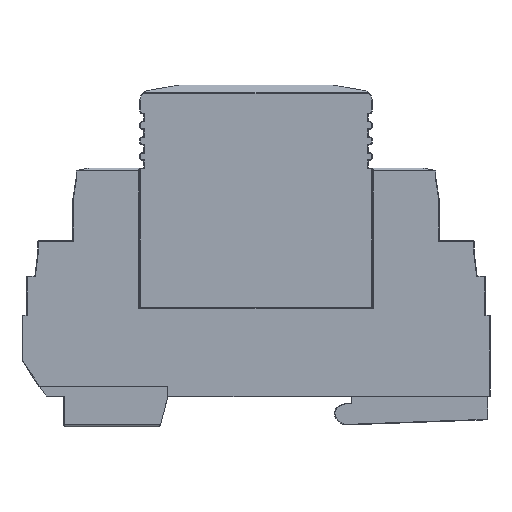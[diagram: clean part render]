
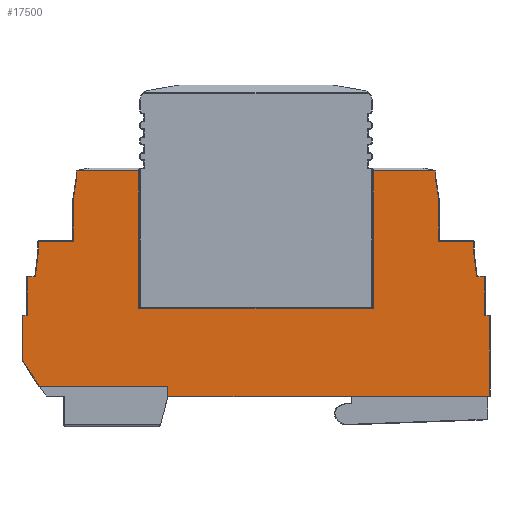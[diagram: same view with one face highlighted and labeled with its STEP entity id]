
A CAD part, front view. The second image highlights one B-rep face of the part: STEP entity #17500.
In plain terms, the highlighted planar face has unit normal (0, -1, 0).
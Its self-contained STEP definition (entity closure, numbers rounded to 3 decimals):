
#291=PLANE('',#18722);
#1047=FACE_OUTER_BOUND('',#2049,.T.);
#2049=EDGE_LOOP('',(#12763,#12764,#12765,#12766,#12767,#12768,#12769,#12770,
#12771,#12772,#12773,#12774,#12775,#12776,#12777,#12778,#12779,#12780,#12781,
#12782,#12783,#12784,#12785,#12786,#12787,#12788,#12789,#12790,#12791));
#3928=LINE('',#26361,#5921);
#3931=LINE('',#26376,#5924);
#3934=LINE('',#26393,#5927);
#3937=LINE('',#26403,#5930);
#3950=LINE('',#26445,#5943);
#3988=LINE('',#26523,#5981);
#3989=LINE('',#26525,#5982);
#3990=LINE('',#26527,#5983);
#3991=LINE('',#26529,#5984);
#3992=LINE('',#26531,#5985);
#3993=LINE('',#26533,#5986);
#3994=LINE('',#26535,#5987);
#3995=LINE('',#26537,#5988);
#3996=LINE('',#26539,#5989);
#3997=LINE('',#26541,#5990);
#3998=LINE('',#26543,#5991);
#3999=LINE('',#26545,#5992);
#4000=LINE('',#26547,#5993);
#4001=LINE('',#26549,#5994);
#4002=LINE('',#26551,#5995);
#4003=LINE('',#26553,#5996);
#4004=LINE('',#26555,#5997);
#4005=LINE('',#26557,#5998);
#4006=LINE('',#26559,#5999);
#4007=LINE('',#26561,#6000);
#4008=LINE('',#26563,#6001);
#4009=LINE('',#26565,#6002);
#4010=LINE('',#26567,#6003);
#4011=LINE('',#26568,#6004);
#5921=VECTOR('',#20939,10.);
#5924=VECTOR('',#20954,10.);
#5927=VECTOR('',#20973,10.);
#5930=VECTOR('',#20982,10.);
#5943=VECTOR('',#21029,10.);
#5981=VECTOR('',#21099,10.);
#5982=VECTOR('',#21100,10.);
#5983=VECTOR('',#21101,10.);
#5984=VECTOR('',#21102,10.);
#5985=VECTOR('',#21103,10.);
#5986=VECTOR('',#21104,10.);
#5987=VECTOR('',#21105,10.);
#5988=VECTOR('',#21106,10.);
#5989=VECTOR('',#21107,10.);
#5990=VECTOR('',#21108,10.);
#5991=VECTOR('',#21109,10.);
#5992=VECTOR('',#21110,10.);
#5993=VECTOR('',#21111,10.);
#5994=VECTOR('',#21112,10.);
#5995=VECTOR('',#21113,10.);
#5996=VECTOR('',#21114,10.);
#5997=VECTOR('',#21115,10.);
#5998=VECTOR('',#21116,10.);
#5999=VECTOR('',#21117,10.);
#6000=VECTOR('',#21118,10.);
#6001=VECTOR('',#21119,10.);
#6002=VECTOR('',#21120,10.);
#6003=VECTOR('',#21121,10.);
#6004=VECTOR('',#21122,10.);
#7895=VERTEX_POINT('',#26354);
#7897=VERTEX_POINT('',#26359);
#7903=VERTEX_POINT('',#26375);
#7908=VERTEX_POINT('',#26388);
#7909=VERTEX_POINT('',#26392);
#7913=VERTEX_POINT('',#26402);
#7949=VERTEX_POINT('',#26522);
#7950=VERTEX_POINT('',#26524);
#7951=VERTEX_POINT('',#26526);
#7952=VERTEX_POINT('',#26528);
#7953=VERTEX_POINT('',#26530);
#7954=VERTEX_POINT('',#26532);
#7955=VERTEX_POINT('',#26534);
#7956=VERTEX_POINT('',#26536);
#7957=VERTEX_POINT('',#26538);
#7958=VERTEX_POINT('',#26540);
#7959=VERTEX_POINT('',#26542);
#7960=VERTEX_POINT('',#26544);
#7961=VERTEX_POINT('',#26546);
#7962=VERTEX_POINT('',#26548);
#7963=VERTEX_POINT('',#26550);
#7964=VERTEX_POINT('',#26552);
#7965=VERTEX_POINT('',#26554);
#7966=VERTEX_POINT('',#26556);
#7967=VERTEX_POINT('',#26558);
#7968=VERTEX_POINT('',#26560);
#7969=VERTEX_POINT('',#26562);
#7970=VERTEX_POINT('',#26564);
#7971=VERTEX_POINT('',#26566);
#9673=EDGE_CURVE('',#7897,#7895,#3928,.T.);
#9680=EDGE_CURVE('',#7895,#7903,#3931,.T.);
#9688=EDGE_CURVE('',#7909,#7908,#3934,.T.);
#9693=EDGE_CURVE('',#7908,#7913,#3937,.T.);
#9715=EDGE_CURVE('',#7903,#7909,#3950,.T.);
#9757=EDGE_CURVE('',#7949,#7897,#3988,.T.);
#9758=EDGE_CURVE('',#7950,#7949,#3989,.T.);
#9759=EDGE_CURVE('',#7951,#7950,#3990,.T.);
#9760=EDGE_CURVE('',#7952,#7951,#3991,.T.);
#9761=EDGE_CURVE('',#7953,#7952,#3992,.T.);
#9762=EDGE_CURVE('',#7954,#7953,#3993,.T.);
#9763=EDGE_CURVE('',#7955,#7954,#3994,.T.);
#9764=EDGE_CURVE('',#7956,#7955,#3995,.T.);
#9765=EDGE_CURVE('',#7957,#7956,#3996,.T.);
#9766=EDGE_CURVE('',#7958,#7957,#3997,.T.);
#9767=EDGE_CURVE('',#7959,#7958,#3998,.T.);
#9768=EDGE_CURVE('',#7959,#7960,#3999,.T.);
#9769=EDGE_CURVE('',#7960,#7961,#4000,.T.);
#9770=EDGE_CURVE('',#7962,#7961,#4001,.T.);
#9771=EDGE_CURVE('',#7963,#7962,#4002,.T.);
#9772=EDGE_CURVE('',#7964,#7963,#4003,.T.);
#9773=EDGE_CURVE('',#7965,#7964,#4004,.T.);
#9774=EDGE_CURVE('',#7966,#7965,#4005,.T.);
#9775=EDGE_CURVE('',#7967,#7966,#4006,.T.);
#9776=EDGE_CURVE('',#7968,#7967,#4007,.T.);
#9777=EDGE_CURVE('',#7969,#7968,#4008,.T.);
#9778=EDGE_CURVE('',#7970,#7969,#4009,.T.);
#9779=EDGE_CURVE('',#7971,#7970,#4010,.T.);
#9780=EDGE_CURVE('',#7913,#7971,#4011,.T.);
#12763=ORIENTED_EDGE('',*,*,#9693,.F.);
#12764=ORIENTED_EDGE('',*,*,#9688,.F.);
#12765=ORIENTED_EDGE('',*,*,#9715,.F.);
#12766=ORIENTED_EDGE('',*,*,#9680,.F.);
#12767=ORIENTED_EDGE('',*,*,#9673,.F.);
#12768=ORIENTED_EDGE('',*,*,#9757,.F.);
#12769=ORIENTED_EDGE('',*,*,#9758,.F.);
#12770=ORIENTED_EDGE('',*,*,#9759,.F.);
#12771=ORIENTED_EDGE('',*,*,#9760,.F.);
#12772=ORIENTED_EDGE('',*,*,#9761,.F.);
#12773=ORIENTED_EDGE('',*,*,#9762,.F.);
#12774=ORIENTED_EDGE('',*,*,#9763,.F.);
#12775=ORIENTED_EDGE('',*,*,#9764,.F.);
#12776=ORIENTED_EDGE('',*,*,#9765,.F.);
#12777=ORIENTED_EDGE('',*,*,#9766,.F.);
#12778=ORIENTED_EDGE('',*,*,#9767,.F.);
#12779=ORIENTED_EDGE('',*,*,#9768,.T.);
#12780=ORIENTED_EDGE('',*,*,#9769,.T.);
#12781=ORIENTED_EDGE('',*,*,#9770,.F.);
#12782=ORIENTED_EDGE('',*,*,#9771,.F.);
#12783=ORIENTED_EDGE('',*,*,#9772,.F.);
#12784=ORIENTED_EDGE('',*,*,#9773,.F.);
#12785=ORIENTED_EDGE('',*,*,#9774,.F.);
#12786=ORIENTED_EDGE('',*,*,#9775,.F.);
#12787=ORIENTED_EDGE('',*,*,#9776,.F.);
#12788=ORIENTED_EDGE('',*,*,#9777,.F.);
#12789=ORIENTED_EDGE('',*,*,#9778,.F.);
#12790=ORIENTED_EDGE('',*,*,#9779,.F.);
#12791=ORIENTED_EDGE('',*,*,#9780,.F.);
#17500=ADVANCED_FACE('',(#1047),#291,.T.);
#18722=AXIS2_PLACEMENT_3D('',#26521,#21097,#21098);
#20939=DIRECTION('',(1.,0.,0.));
#20954=DIRECTION('',(0.,0.,-1.));
#20973=DIRECTION('',(0.,0.,1.));
#20982=DIRECTION('',(1.,0.,0.));
#21029=DIRECTION('',(1.,0.,0.));
#21097=DIRECTION('center_axis',(0.,-1.,0.));
#21098=DIRECTION('ref_axis',(1.,0.,0.));
#21099=DIRECTION('',(0.,0.,1.));
#21100=DIRECTION('',(0.154,0.,0.988));
#21101=DIRECTION('',(0.,0.,1.));
#21102=DIRECTION('',(1.,0.,0.));
#21103=DIRECTION('',(0.,0.,1.));
#21104=DIRECTION('',(0.124,0.,0.992));
#21105=DIRECTION('',(1.,0.,0.));
#21106=DIRECTION('',(0.,0.,1.));
#21107=DIRECTION('',(1.,0.,0.));
#21108=DIRECTION('',(0.,0.,1.));
#21109=DIRECTION('',(-0.553,0.,0.833));
#21110=DIRECTION('',(1.,0.,0.));
#21111=DIRECTION('',(0.,0.,-1.));
#21112=DIRECTION('',(-1.,0.,0.));
#21113=DIRECTION('',(0.,0.,-1.));
#21114=DIRECTION('',(1.,0.,0.));
#21115=DIRECTION('',(0.,0.,-1.));
#21116=DIRECTION('',(1.,0.,0.));
#21117=DIRECTION('',(0.124,0.,-0.992));
#21118=DIRECTION('',(0.,0.,-1.));
#21119=DIRECTION('',(1.,0.,0.));
#21120=DIRECTION('',(0.,0.,-1.));
#21121=DIRECTION('',(0.154,0.,-0.988));
#21122=DIRECTION('',(0.,0.,-1.));
#26354=CARTESIAN_POINT('',(-22.725,-8.75,40.609));
#26359=CARTESIAN_POINT('',(-34.688,-8.75,40.609));
#26361=CARTESIAN_POINT('',(-33.931,-8.75,40.609));
#26375=CARTESIAN_POINT('',(-22.725,-8.75,14.15));
#26376=CARTESIAN_POINT('',(-22.725,-8.75,31.025));
#26388=CARTESIAN_POINT('',(22.475,-8.75,40.609));
#26392=CARTESIAN_POINT('',(22.475,-8.75,14.15));
#26393=CARTESIAN_POINT('',(22.475,-8.75,18.575));
#26402=CARTESIAN_POINT('',(34.438,-8.75,40.609));
#26403=CARTESIAN_POINT('',(-33.931,-8.75,40.609));
#26445=CARTESIAN_POINT('',(-22.663,-8.75,14.15));
#26521=CARTESIAN_POINT('Origin',(-45.2,-8.75,20.9));
#26522=CARTESIAN_POINT('',(-34.688,-8.75,39.143));
#26523=CARTESIAN_POINT('',(-34.688,-8.75,31.025));
#26524=CARTESIAN_POINT('',(-35.375,-8.75,34.742));
#26525=CARTESIAN_POINT('',(-36.204,-8.75,29.433));
#26526=CARTESIAN_POINT('',(-35.375,-8.75,27.05));
#26527=CARTESIAN_POINT('',(-35.375,-8.75,27.825));
#26528=CARTESIAN_POINT('',(-42.025,-8.75,27.05));
#26529=CARTESIAN_POINT('',(-22.663,-8.75,27.05));
#26530=CARTESIAN_POINT('',(-42.025,-8.75,25.144));
#26531=CARTESIAN_POINT('',(-42.025,-8.75,24.525));
#26532=CARTESIAN_POINT('',(-42.637,-8.75,20.25));
#26533=CARTESIAN_POINT('',(-42.311,-8.75,22.856));
#26534=CARTESIAN_POINT('',(-44.175,-8.75,20.25));
#26535=CARTESIAN_POINT('',(-43.963,-8.75,20.25));
#26536=CARTESIAN_POINT('',(-44.175,-8.75,12.75));
#26537=CARTESIAN_POINT('',(-44.175,-8.75,20.625));
#26538=CARTESIAN_POINT('',(-45.1,-8.75,12.75));
#26539=CARTESIAN_POINT('',(-44.738,-8.75,12.75));
#26540=CARTESIAN_POINT('',(-45.1,-8.75,4.08));
#26541=CARTESIAN_POINT('',(-45.1,-8.75,20.9));
#26542=CARTESIAN_POINT('',(-41.83,-8.75,-0.85));
#26543=CARTESIAN_POINT('',(-48.185,-8.75,8.731));
#26544=CARTESIAN_POINT('',(-17.1,-8.75,-0.85));
#26545=CARTESIAN_POINT('',(-45.2,-8.75,-0.85));
#26546=CARTESIAN_POINT('',(-17.1,-8.75,-2.85));
#26547=CARTESIAN_POINT('',(-17.1,-8.75,10.025));
#26548=CARTESIAN_POINT('',(44.85,-8.75,-2.85));
#26549=CARTESIAN_POINT('',(44.95,-8.75,-2.85));
#26550=CARTESIAN_POINT('',(44.85,-8.75,12.75));
#26551=CARTESIAN_POINT('',(44.85,-8.75,20.9));
#26552=CARTESIAN_POINT('',(43.925,-8.75,12.75));
#26553=CARTESIAN_POINT('',(-0.125,-8.75,12.75));
#26554=CARTESIAN_POINT('',(43.925,-8.75,20.25));
#26555=CARTESIAN_POINT('',(43.925,-8.75,16.875));
#26556=CARTESIAN_POINT('',(42.387,-8.75,20.25));
#26557=CARTESIAN_POINT('',(-0.587,-8.75,20.25));
#26558=CARTESIAN_POINT('',(41.775,-8.75,25.144));
#26559=CARTESIAN_POINT('',(41.668,-8.75,26.004));
#26560=CARTESIAN_POINT('',(41.775,-8.75,27.05));
#26561=CARTESIAN_POINT('',(41.775,-8.75,23.025));
#26562=CARTESIAN_POINT('',(35.125,-8.75,27.05));
#26563=CARTESIAN_POINT('',(-22.663,-8.75,27.05));
#26564=CARTESIAN_POINT('',(35.125,-8.75,34.742));
#26565=CARTESIAN_POINT('',(35.125,-8.75,24.525));
#26566=CARTESIAN_POINT('',(34.438,-8.75,39.142));
#26567=CARTESIAN_POINT('',(35.224,-8.75,34.108));
#26568=CARTESIAN_POINT('',(34.438,-8.75,30.025));
